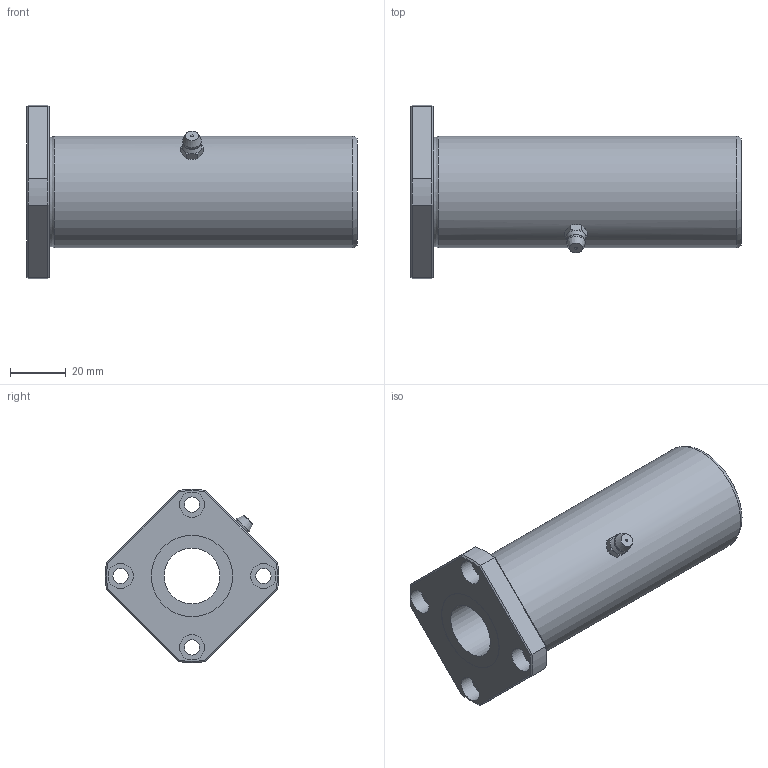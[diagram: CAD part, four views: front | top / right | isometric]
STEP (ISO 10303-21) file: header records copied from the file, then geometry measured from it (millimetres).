
FILE_DESCRIPTION((''),'2;1');
FILE_NAME('D:\製品 (図面)\カタログ用3D\リニアベアリング関連\STEP形式\LFLK\LFLK20.stp','2010-06-04T09:08:47',('Tsuchiya'),(''),'Autodesk Inventor 10','Autodesk Inventor 10','');
FILE_SCHEMA(('AUTOMOTIVE_DESIGN { 1 0 10303 214 1 1 1 1 }'));
Length unit declared in the file: millimetre
Products named in the file (1): LFLK20
Bounding box: 118 x 61.92 x 61.92 mm (x, y, z)
Volume: 118932.3 mm3; surface area: 27599.9 mm2
Topology: 1 solids, 1 shells, 76 faces, 159 edges, 94 vertices
Faces by surface type: plane 31, cone 21, cylinder 18, bspline 3, sphere 2, torus 1
Full cylindrical faces by diameter (mm): 5.5 x4, 9 x4, 20 x1, 29 x2, 40 x1
Entity records: 2171 total; most frequent: CARTESIAN_POINT 657, DIRECTION 310, ORIENTED_EDGE 280, EDGE_CURVE 140, AXIS2_PLACEMENT_3D 138, EDGE_LOOP 114, VERTEX_POINT 92, FACE_OUTER_BOUND 76
